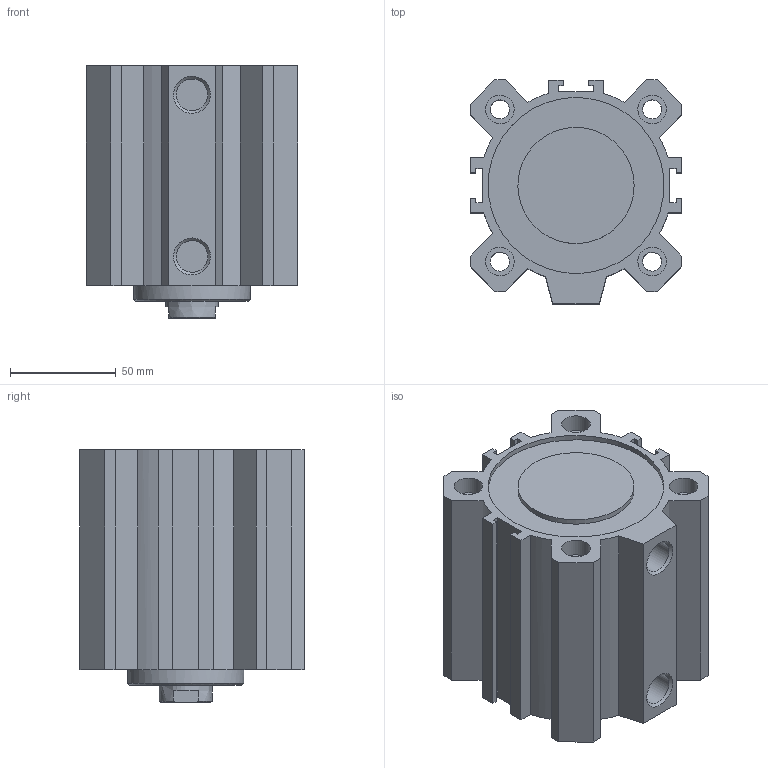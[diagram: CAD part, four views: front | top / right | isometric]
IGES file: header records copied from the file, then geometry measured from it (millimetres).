
Global section: file name: 1511_80_0055; native system: Autodesk Inventor 2014; preprocessor: unknown; author: A. Manieri; date: 20160824.142219; units: millimetre
Bounding box: 100 x 106 x 119.5 mm (x, y, z)
Volume: 604819.1 mm3; surface area: 139332.3 mm2
Topology: 2 solids, 2 shells, 119 faces, 307 edges, 210 vertices
Faces by surface type: bspline 119
